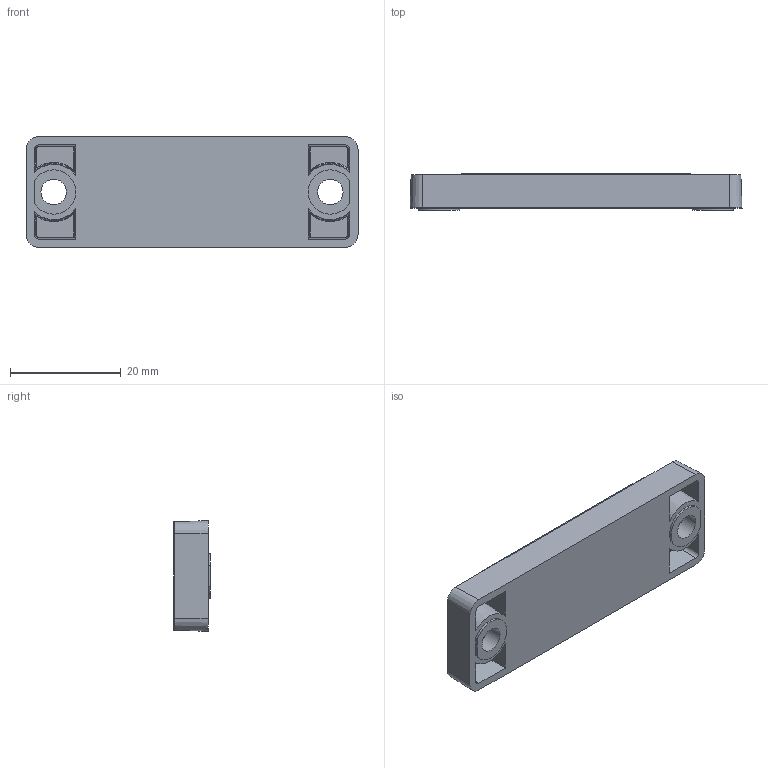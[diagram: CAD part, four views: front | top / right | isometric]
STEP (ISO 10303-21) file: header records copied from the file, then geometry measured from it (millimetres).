
FILE_DESCRIPTION(/* description */ (''),/* implementation_level */ '2;1');
FILE_NAME(/* name */ '3DCAD_MTKS20x40_1.stp',/* time_stamp */ '2017-04-10T14:21:51+02:00',/* author */ ('CC2'),/* organization */ ('Leuze electronic'),/* preprocessor_version */ 'ST-DEVELOPER v15',/* originating_system */ 'SIEMENS PLM Software NX 8.5',/* authorisation */ '');
FILE_SCHEMA (('AUTOMOTIVE_DESIGN { 1 0 10303 214 3 1 1 1 }'));
Length unit declared in the file: millimetre
Products named in the file (2): 19-100799_00.0
Assembly tree (1 placements, depth 2):
  19-100799_00.0
    19-100799_00.0
Bounding box: 60 x 6.6 x 20 mm (x, y, z)
Volume: 6370.4 mm3; surface area: 3953 mm2
Topology: 1 solids, 1 shells, 72 faces, 163 edges, 101 vertices
Faces by surface type: plane 34, cylinder 16, cone 14, torus 8
Full cylindrical faces by diameter (mm): 4.6 x2
Entity records: 2155 total; most frequent: CARTESIAN_POINT 515, DIRECTION 338, ORIENTED_EDGE 316, EDGE_CURVE 158, AXIS2_PLACEMENT_3D 126, VERTEX_POINT 100, EDGE_LOOP 88, LINE 86
